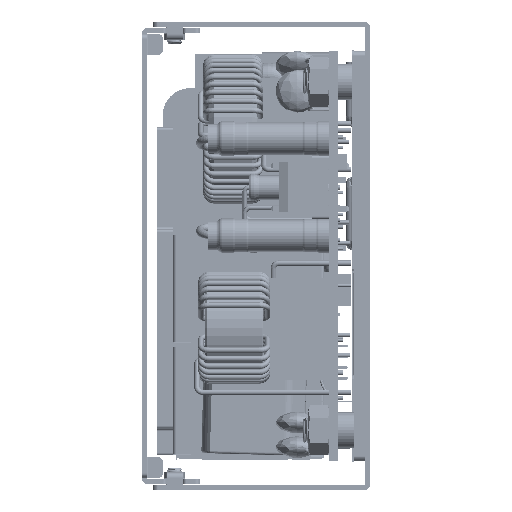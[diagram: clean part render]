
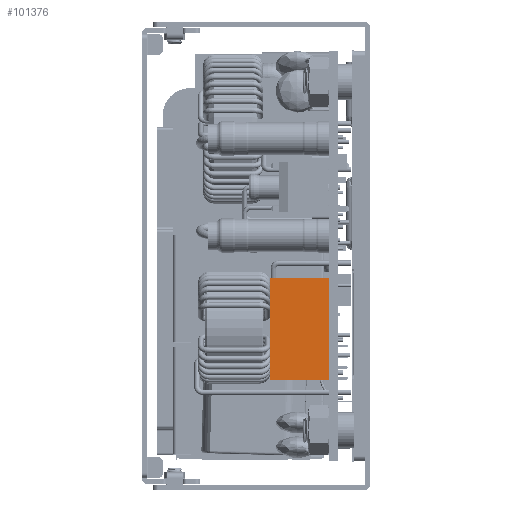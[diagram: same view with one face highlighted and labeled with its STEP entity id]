
A CAD part, left-side view. The second image highlights one B-rep face of the part: STEP entity #101376.
In plain terms, the highlighted planar face has unit normal (-1, 0, 0).
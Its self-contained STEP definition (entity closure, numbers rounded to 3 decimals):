
#37 = LINE ( 'NONE', #55050, #26665 ) ;
#5697 = CARTESIAN_POINT ( 'NONE',  ( 1.9, 11., -42.1 ) ) ;
#12111 = DIRECTION ( 'NONE',  ( 1., 0., 0. ) ) ;
#12583 = CARTESIAN_POINT ( 'NONE',  ( 1.9, 11., -61.2 ) ) ;
#22798 = ORIENTED_EDGE ( 'NONE', *, *, #24698, .F. ) ;
#24698 = EDGE_CURVE ( 'NONE', #88585, #61949, #61587, .T. ) ;
#24763 = CARTESIAN_POINT ( 'NONE',  ( 1.9, 11., -61.2 ) ) ;
#25626 = DIRECTION ( 'NONE',  ( 0., 0., -1. ) ) ;
#26665 = VECTOR ( 'NONE', #124472, 1000. ) ;
#28599 = CARTESIAN_POINT ( 'NONE',  ( 1.9, 11., -42.1 ) ) ;
#33407 = ORIENTED_EDGE ( 'NONE', *, *, #134948, .T. ) ;
#35024 = CARTESIAN_POINT ( 'NONE',  ( 1.9, 0., -61.2 ) ) ;
#37696 = DIRECTION ( 'NONE',  ( 0., 0., 1. ) ) ;
#54662 = VERTEX_POINT ( 'NONE', #12583 ) ;
#55050 = CARTESIAN_POINT ( 'NONE',  ( 1.9, 11., -61.2 ) ) ;
#56246 = CARTESIAN_POINT ( 'NONE',  ( 1.9, 11., -61.2 ) ) ;
#60473 = ORIENTED_EDGE ( 'NONE', *, *, #152974, .T. ) ;
#61587 = LINE ( 'NONE', #5697, #172298 ) ;
#61949 = VERTEX_POINT ( 'NONE', #79510 ) ;
#65084 = VECTOR ( 'NONE', #37696, 1000. ) ;
#79510 = CARTESIAN_POINT ( 'NONE',  ( 1.9, 0., -42.1 ) ) ;
#85757 = VERTEX_POINT ( 'NONE', #170661 ) ;
#88585 = VERTEX_POINT ( 'NONE', #28599 ) ;
#101376 = ADVANCED_FACE ( 'NONE', ( #162699 ), #163571, .F. ) ;
#102177 = DIRECTION ( 'NONE',  ( 0., -1., 0. ) ) ;
#104192 = EDGE_CURVE ( 'NONE', #54662, #88585, #37, .T. ) ;
#120193 = VECTOR ( 'NONE', #148271, 1000. ) ;
#123887 = LINE ( 'NONE', #56246, #120193 ) ;
#124472 = DIRECTION ( 'NONE',  ( 0., 0., 1. ) ) ;
#134948 = EDGE_CURVE ( 'NONE', #85757, #61949, #158571, .T. ) ;
#138733 = EDGE_LOOP ( 'NONE', ( #33407, #22798, #150714, #60473 ) ) ;
#148271 = DIRECTION ( 'NONE',  ( 0., -1., 0. ) ) ;
#150714 = ORIENTED_EDGE ( 'NONE', *, *, #104192, .F. ) ;
#152974 = EDGE_CURVE ( 'NONE', #54662, #85757, #123887, .T. ) ;
#158571 = LINE ( 'NONE', #35024, #65084 ) ;
#162699 = FACE_OUTER_BOUND ( 'NONE', #138733, .T. ) ;
#163571 = PLANE ( 'NONE',  #172755 ) ;
#170661 = CARTESIAN_POINT ( 'NONE',  ( 1.9, 0., -61.2 ) ) ;
#172298 = VECTOR ( 'NONE', #102177, 1000. ) ;
#172755 = AXIS2_PLACEMENT_3D ( 'NONE', #24763, #12111, #25626 ) ;
